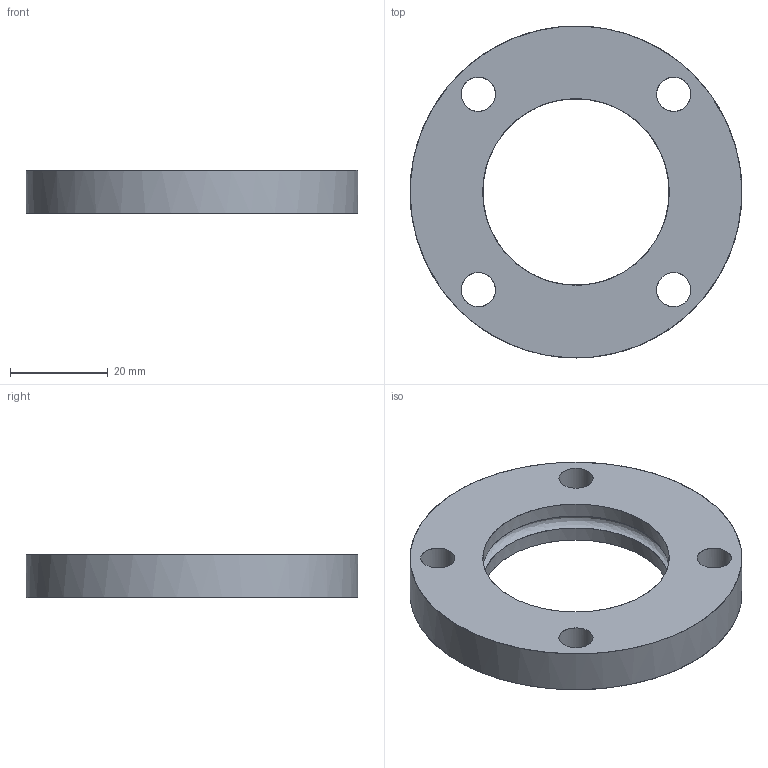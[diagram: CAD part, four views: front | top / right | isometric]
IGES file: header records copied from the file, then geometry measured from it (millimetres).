
Start section: VISI Layer Mapping Iges    VISI  0      LAYER_EMPTY  1      wwww  7      W_PD700  8      S_PD700  10     W_PD1000  11     S_PD1000  13     W_PD2000  14     S_PD2000  16     W_PD3000  17     S_PD3000  19     W_PD4000  20     S_PD4000  22     W_PD7000  23     S_PD7000  28     W_350  29     MS-350  30     MC-350  31     MP-350  32     MB-350  33     MH-350  34     MK-350  35     MPL-350  39     W_500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
Global section: file name: L:\cam_backup\钎霖前_沥府\颇况咆\mount_______\500\MC-500.igs; native system: VISI 16.0; preprocessor: 2.0; author: 11; organization: 0; date: 500.; units: mil
Bounding box: 68 x 68 x 9 mm (x, y, z)
Surface area: 8696.9 mm2 (no closed solid volume)
Topology: 0 solids, 0 shells, 10 faces, 305 edges, 305 vertices
Faces by surface type: bspline 10
